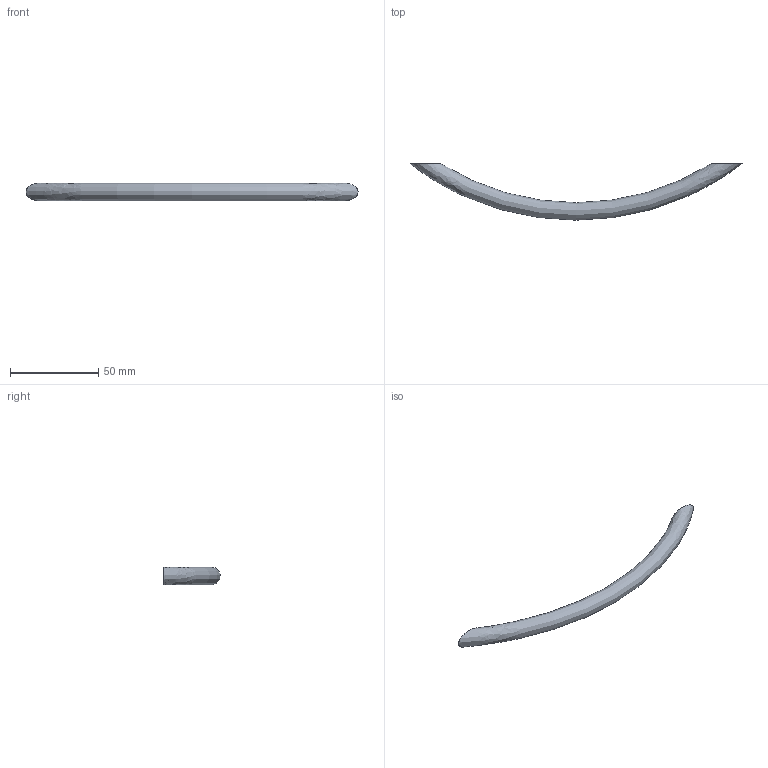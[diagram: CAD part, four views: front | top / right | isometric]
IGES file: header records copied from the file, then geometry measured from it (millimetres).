
Start section: Data from Parasolid IGES Translator 15.0.47, Copyright(c) 2006 Siemens P LM Software. All Rights Reserved.
Global section: file name: 9070722.igs; native system:  By UGS Corp.; preprocessor: XPlus GENERIC/IGES 3.0; author: Noname; organization: Noname; date: 20140827.155637; units: millimetre
Bounding box: 187.99 x 31.94 x 10 mm (x, y, z)
Surface area: 6140.9 mm2 (no closed solid volume)
Topology: 0 solids, 0 shells, 7 faces, 18 edges, 14 vertices
Faces by surface type: extrusion 4, revolution 3
